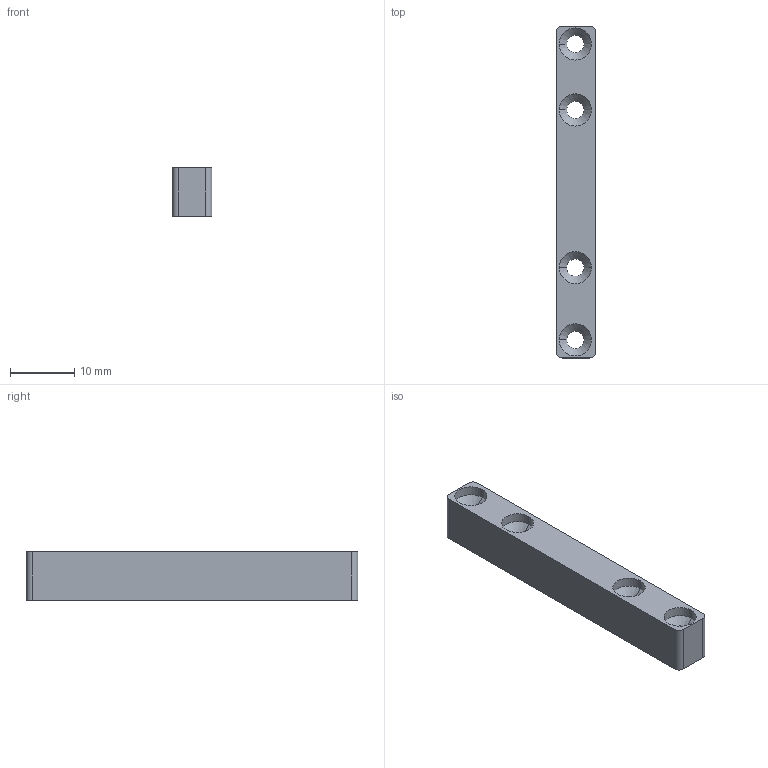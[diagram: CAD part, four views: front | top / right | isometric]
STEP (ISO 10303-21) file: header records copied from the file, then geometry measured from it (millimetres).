
FILE_DESCRIPTION (( 'STEP AP214' ), '1' );
FILE_NAME ('电池卡扣压条.STEP', '2026-09-29T01:07:19', ( '微软用户' ), ( '微软中国' ), 'SwSTEP 2.0', 'SolidWorks 2016', '' );
FILE_SCHEMA (( 'AUTOMOTIVE_DESIGN' ));
Length unit declared in the file: millimetre
Products named in the file (1): 萇喀縐諶揤沭
Bounding box: 6.2 x 51.6 x 7.5 mm (x, y, z)
Volume: 2108.9 mm3; surface area: 1728.3 mm2
Topology: 1 solids, 1 shells, 34 faces, 80 edges, 48 vertices
Faces by surface type: cylinder 20, cone 8, plane 6
Entity records: 1026 total; most frequent: DIRECTION 190, CARTESIAN_POINT 163, ORIENTED_EDGE 160, EDGE_CURVE 80, AXIS2_PLACEMENT_3D 75, VERTEX_POINT 48, EDGE_LOOP 42, VECTOR 40
